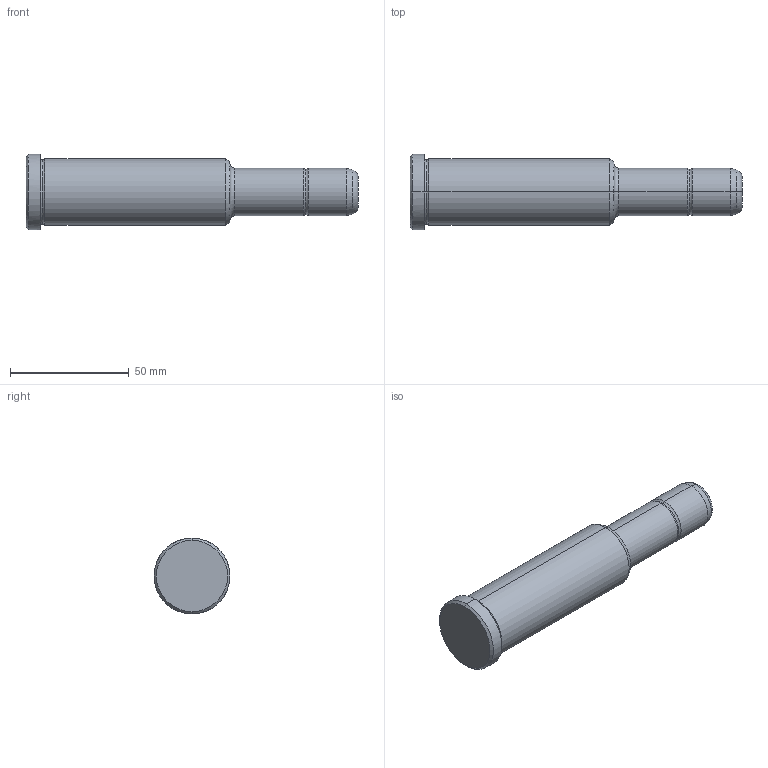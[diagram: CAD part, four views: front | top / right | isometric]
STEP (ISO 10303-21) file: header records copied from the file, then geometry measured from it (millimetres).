
FILE_DESCRIPTION(('CATIA V5 STEP Exchange'),'2;1');
FILE_NAME('C:\Users\Utente\Desktop\IO LAVORO\3D X SITO CF\X SITO\PLASTICA\351\351-20X86X140.stp','2021-08-27T13:07:18+00:00',('none'),('none'),'CATIA Version 5 Release 20 GA (IN-10)','CATIA V5 STEP AP203','none');
FILE_SCHEMA(('CONFIG_CONTROL_DESIGN'));
Length unit declared in the file: millimetre
Products named in the file (1): 351-20X86X140
Bounding box: 140 x 32 x 32 mm (x, y, z)
Volume: 70601.1 mm3; surface area: 12360.7 mm2
Topology: 1 solids, 1 shells, 30 faces, 86 edges, 60 vertices
Faces by surface type: torus 12, cylinder 8, cone 6, plane 4
Entity records: 1112 total; most frequent: CARTESIAN_POINT 289, ORIENTED_EDGE 172, DIRECTION 138, AXIS2_PLACEMENT_3D 95, EDGE_CURVE 86, CIRCLE 64, VERTEX_POINT 60, EDGE_LOOP 32
